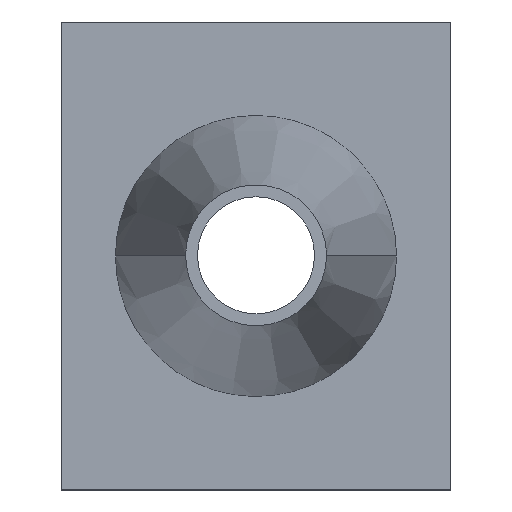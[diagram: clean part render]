
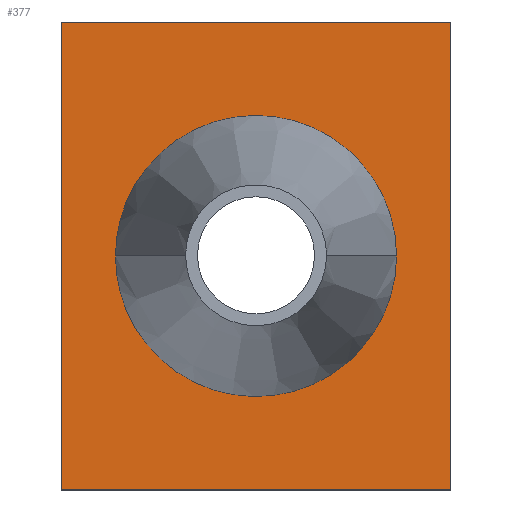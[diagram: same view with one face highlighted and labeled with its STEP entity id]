
A CAD part, top view. The second image highlights one B-rep face of the part: STEP entity #377.
In plain terms, the highlighted planar face has unit normal (0, 0, 1).
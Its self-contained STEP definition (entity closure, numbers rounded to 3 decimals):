
#167=CARTESIAN_POINT('Vertex',(0.,120.,3.)) ;
#174=CARTESIAN_POINT('Vertex',(0.,0.,3.)) ;
#177=CARTESIAN_POINT('Line Origine',(0.,60.,3.)) ;
#198=CARTESIAN_POINT('Vertex',(100.,120.,3.)) ;
#201=CARTESIAN_POINT('Line Origine',(50.,120.,3.)) ;
#222=CARTESIAN_POINT('Vertex',(100.,0.,3.)) ;
#225=CARTESIAN_POINT('Line Origine',(100.,60.,3.)) ;
#242=CARTESIAN_POINT('Line Origine',(50.,0.,3.)) ;
#324=CARTESIAN_POINT('Axis2P3D Location',(0.,0.,3.)) ;
#336=CARTESIAN_POINT('Control Point',(86.032,60.,3.)) ;
#337=CARTESIAN_POINT('Control Point',(86.032,65.897,3.)) ;
#338=CARTESIAN_POINT('Control Point',(84.825,71.794,3.)) ;
#339=CARTESIAN_POINT('Control Point',(82.411,77.362,3.)) ;
#340=CARTESIAN_POINT('Control Point',(75.45,87.184,3.)) ;
#341=CARTESIAN_POINT('Control Point',(65.191,93.483,3.)) ;
#342=CARTESIAN_POINT('Control Point',(59.475,95.526,3.)) ;
#343=CARTESIAN_POINT('Control Point',(47.547,97.157,3.)) ;
#344=CARTESIAN_POINT('Control Point',(35.936,93.972,3.)) ;
#345=CARTESIAN_POINT('Control Point',(30.539,91.196,3.)) ;
#346=CARTESIAN_POINT('Control Point',(21.949,84.214,3.)) ;
#347=CARTESIAN_POINT('Control Point',(16.516,74.646,3.)) ;
#348=CARTESIAN_POINT('Control Point',(14.817,69.893,3.)) ;
#349=CARTESIAN_POINT('Control Point',(13.968,64.947,3.)) ;
#350=CARTESIAN_POINT('Control Point',(13.968,60.,3.)) ;
#351=CARTESIAN_POINT('Vertex',(86.032,60.,3.)) ;
#353=CARTESIAN_POINT('Vertex',(13.968,60.,3.)) ;
#357=CARTESIAN_POINT('Control Point',(86.032,60.,3.)) ;
#358=CARTESIAN_POINT('Control Point',(86.032,54.103,3.)) ;
#359=CARTESIAN_POINT('Control Point',(84.825,48.206,3.)) ;
#360=CARTESIAN_POINT('Control Point',(82.411,42.638,3.)) ;
#361=CARTESIAN_POINT('Control Point',(75.45,32.816,3.)) ;
#362=CARTESIAN_POINT('Control Point',(65.191,26.517,3.)) ;
#363=CARTESIAN_POINT('Control Point',(59.475,24.474,3.)) ;
#364=CARTESIAN_POINT('Control Point',(47.547,22.843,3.)) ;
#365=CARTESIAN_POINT('Control Point',(35.936,26.028,3.)) ;
#366=CARTESIAN_POINT('Control Point',(30.539,28.804,3.)) ;
#367=CARTESIAN_POINT('Control Point',(21.949,35.786,3.)) ;
#368=CARTESIAN_POINT('Control Point',(16.516,45.354,3.)) ;
#369=CARTESIAN_POINT('Control Point',(14.817,50.107,3.)) ;
#370=CARTESIAN_POINT('Control Point',(13.968,55.053,3.)) ;
#371=CARTESIAN_POINT('Control Point',(13.968,60.,3.)) ;
#178=DIRECTION('Vector Direction',(0.,1.,0.)) ;
#202=DIRECTION('Vector Direction',(-1.,0.,0.)) ;
#226=DIRECTION('Vector Direction',(0.,1.,0.)) ;
#243=DIRECTION('Vector Direction',(1.,0.,0.)) ;
#325=DIRECTION('Axis2P3D Direction',(0.,0.,1.)) ;
#326=DIRECTION('Axis2P3D XDirection',(1.,0.,0.)) ;
#327=AXIS2_PLACEMENT_3D('Plane Axis2P3D',#324,#325,#326) ;
#330=ORIENTED_EDGE('',*,*,#181,.F.) ;
#331=ORIENTED_EDGE('',*,*,#246,.T.) ;
#332=ORIENTED_EDGE('',*,*,#229,.T.) ;
#333=ORIENTED_EDGE('',*,*,#205,.T.) ;
#374=ORIENTED_EDGE('',*,*,#355,.F.) ;
#375=ORIENTED_EDGE('',*,*,#372,.T.) ;
#376=FACE_BOUND('',#373,.T.) ;
#179=VECTOR('Line Direction',#178,1.) ;
#203=VECTOR('Line Direction',#202,1.) ;
#227=VECTOR('Line Direction',#226,1.) ;
#244=VECTOR('Line Direction',#243,1.) ;
#377=ADVANCED_FACE('PartBody',(#334,#376),#328,.T.) ;
#335=B_SPLINE_CURVE_WITH_KNOTS('',5,(#336,#337,#338,#339,#340,#341,#342,#343,#344,#345,#346,#347,#348,#349,#350),.UNSPECIFIED.,.F.,.U.,(6,3,3,3,6),(0.,31.937,63.878,95.82,122.611),.UNSPECIFIED.) ;
#356=B_SPLINE_CURVE_WITH_KNOTS('',5,(#357,#358,#359,#360,#361,#362,#363,#364,#365,#366,#367,#368,#369,#370,#371),.UNSPECIFIED.,.F.,.U.,(6,3,3,3,6),(0.,31.937,63.878,95.82,122.611),.UNSPECIFIED.) ;
#181=EDGE_CURVE('',#175,#168,#180,.T.) ;
#205=EDGE_CURVE('',#199,#168,#204,.T.) ;
#229=EDGE_CURVE('',#223,#199,#228,.T.) ;
#246=EDGE_CURVE('',#175,#223,#245,.T.) ;
#355=EDGE_CURVE('',#352,#354,#335,.T.) ;
#372=EDGE_CURVE('',#352,#354,#356,.T.) ;
#329=EDGE_LOOP('',(#330,#331,#332,#333)) ;
#373=EDGE_LOOP('',(#374,#375)) ;
#334=FACE_OUTER_BOUND('',#329,.T.) ;
#180=LINE('Line',#177,#179) ;
#204=LINE('Line',#201,#203) ;
#228=LINE('Line',#225,#227) ;
#245=LINE('Line',#242,#244) ;
#328=PLANE('',#327) ;
#168=VERTEX_POINT('',#167) ;
#175=VERTEX_POINT('',#174) ;
#199=VERTEX_POINT('',#198) ;
#223=VERTEX_POINT('',#222) ;
#352=VERTEX_POINT('',#351) ;
#354=VERTEX_POINT('',#353) ;
